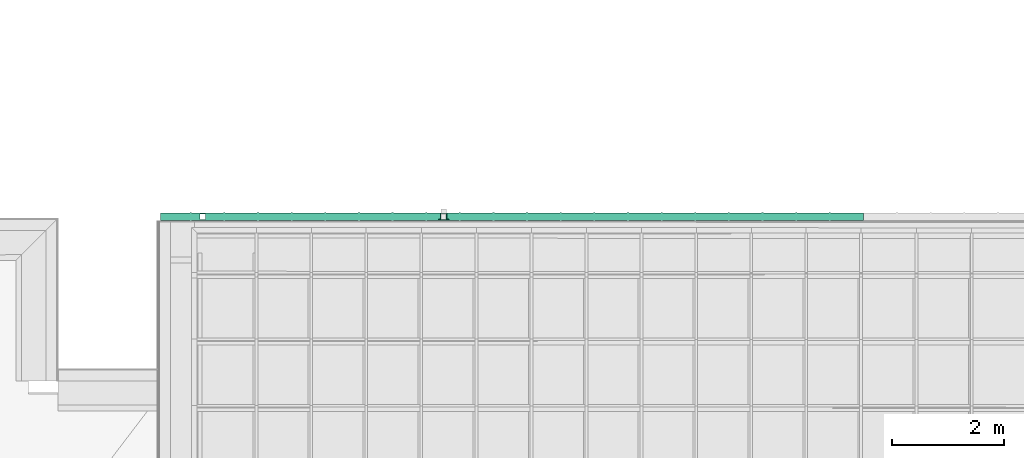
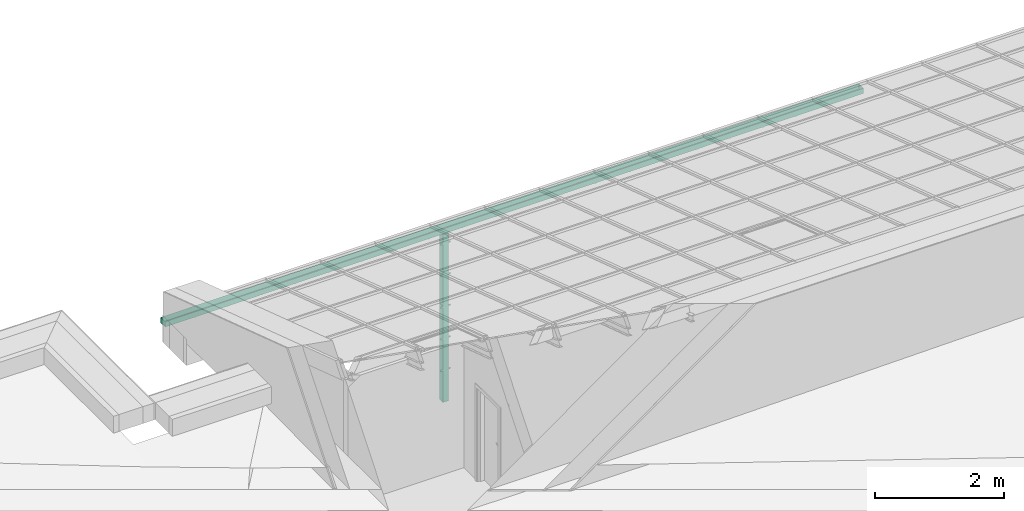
# One storey, part 28 of 47: 2 flow terminals.
"""IFC2X3 building model written with IfcOpenShell, lengths in millimetres."""

from ifc_helpers import new_model, entity, si_unit, converted_unit, derived_unit, money_unit, direction, frame, origin_with_axes, place, context, subcontext, project, spatial, open_shell, faceted_brep, surface_model, type_object, element, save


model = new_model("IFC2X3")

# Units and contexts
model_context = context("Model", 3, precision=1e-05, world=origin_with_axes(), true_north=direction((0.0, 1.0)))
body_context = subcontext(model_context, "Body", "Model", "MODEL_VIEW")
ifc_project = project(units=[si_unit("LENGTHUNIT", "METRE", prefix="MILLI"), si_unit("AREAUNIT", "SQUARE_METRE"), si_unit("VOLUMEUNIT", "CUBIC_METRE"), converted_unit("PLANEANGLEUNIT", "DEGREE", entity("IfcPlaneAngleMeasure", 0.0174532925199), si_unit("PLANEANGLEUNIT", "RADIAN"), dimensions=[0, 0, 0, 0, 0, 0, 0]), si_unit("SOLIDANGLEUNIT", "STERADIAN"), money_unit("EUR"), converted_unit("TIMEUNIT", "Year", entity("IfcTimeMeasure", 31556926.0), si_unit("TIMEUNIT", "SECOND"), dimensions=[0, 0, 1, 0, 0, 0, 0]), si_unit("MASSUNIT", "GRAM", prefix="KILO"), si_unit("THERMODYNAMICTEMPERATUREUNIT", "DEGREE_CELSIUS"), si_unit("LUMINOUSINTENSITYUNIT", "LUMEN"), si_unit("ENERGYUNIT", "JOULE", prefix="MEGA"), derived_unit("THERMALCONDUCTANCEUNIT", [(si_unit("POWERUNIT", "WATT"), 1), (si_unit("LENGTHUNIT", "METRE"), -1), (si_unit("THERMODYNAMICTEMPERATUREUNIT", "KELVIN"), -1)]), derived_unit("SPECIFICHEATCAPACITYUNIT", [(si_unit("ENERGYUNIT", "JOULE"), 1), (si_unit("MASSUNIT", "GRAM", prefix="KILO"), -1), (si_unit("THERMODYNAMICTEMPERATUREUNIT", "KELVIN"), -1)]), derived_unit("MASSDENSITYUNIT", [(si_unit("MASSUNIT", "GRAM", prefix="KILO"), 1), (si_unit("VOLUMEUNIT", "CUBIC_METRE"), -1)])], contexts=[model_context])

# Site, building, storey
site_placement = place(None, origin_with_axes())
site = spatial("IfcSite", under=ifc_project, at=site_placement, Name="Site", CompositionType="ELEMENT")
building_placement = place(site_placement, origin_with_axes())
building = spatial("IfcBuilding", under=site, at=building_placement, Name="Building", CompositionType="ELEMENT")
storey_placement = place(building_placement, frame((0.0, 0.0, 6000.0), z_axis=(0.0, 0.0, 1.0), x_axis=(1.0, 0.0, 0.0)))
storey = spatial("IfcBuildingStorey", under=building, at=storey_placement, Name="KATUSEPLAAN", CompositionType="ELEMENT", Elevation=6000.0)

# Flow terminals
waste_terminal_type_1 = type_object("IfcWasteTerminalType", Name="Gutter 22", PredefinedType="NOTDEFINED")
flow_terminal_1_placement = place(storey_placement, frame((76088.9910702, 47597.8063405, 502.039645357), z_axis=(0.0, 0.0, 1.0), x_axis=(-1.0, 0.0, 0.0)))
element("IfcFlowTerminal", 1, at=flow_terminal_1_placement, inside=storey, type_object=waste_terminal_type_1, Name="Renn", context=body_context, shape_type="SurfaceModel", body=[
    surface_model("IfcShellBasedSurfaceModel", [(-0.349065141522, 70.0, -99.9993907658), (-0.349065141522, -70.0, -99.9993907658), (12538.272558, -70.0, -143.76761473), (12538.272558, 70.0, -143.76761473), (11838.200433, 50.0, -141.323892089), (11838.200433, -50.0, -141.323892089), (11738.2010423, -50.0, -140.974826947), (11738.2010423, 50.0, -140.974826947), (0.0, -70.0, 0.0), (12538.6216231, -70.0, -43.7682239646), (12538.6216231, 70.0, -43.7682239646), (0.0, 70.0, 0.0)], [open_shell([[[0, 1, 2, 3], [4, 5, 6, 7]], [[2, 1, 8, 9]], [[10, 11, 0, 3]]])]),
    surface_model("IfcShellBasedSurfaceModel", [(585.0, -74.0, -0.0420435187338), (585.0, -74.0, -104.147372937), (615.0, -74.0, -104.147372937), (615.0, -74.0, -0.0420435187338), (585.0, 74.0, -104.147372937), (615.0, 74.0, -104.147372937), (585.0, 74.0, -0.0420435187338), (615.0, 74.0, -0.0420435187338)], [open_shell([[[0, 1, 2, 3]], [[1, 4, 5, 2]], [[4, 6, 7, 5]]])]),
    surface_model("IfcShellBasedSurfaceModel", [(1185.0, -74.0, -2.13644712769), (1185.0, -74.0, -106.241776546), (1215.0, -74.0, -106.241776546), (1215.0, -74.0, -2.13644712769), (1185.0, 74.0, -106.241776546), (1215.0, 74.0, -106.241776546), (1185.0, 74.0, -2.13644712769), (1215.0, 74.0, -2.13644712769)], [open_shell([[[0, 1, 2, 3]], [[1, 4, 5, 2]], [[4, 6, 7, 5]]])]),
    surface_model("IfcShellBasedSurfaceModel", [(1785.0, -74.0, -4.23085073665), (1785.0, -74.0, -108.336180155), (1815.0, -74.0, -108.336180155), (1815.0, -74.0, -4.23085073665), (1785.0, 74.0, -108.336180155), (1815.0, 74.0, -108.336180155), (1785.0, 74.0, -4.23085073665), (1815.0, 74.0, -4.23085073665)], [open_shell([[[0, 1, 2, 3]], [[1, 4, 5, 2]], [[4, 6, 7, 5]]])]),
    surface_model("IfcShellBasedSurfaceModel", [(2385.0, -74.0, -6.32525434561), (2385.0, -74.0, -110.430583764), (2415.0, -74.0, -110.430583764), (2415.0, -74.0, -6.32525434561), (2385.0, 74.0, -110.430583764), (2415.0, 74.0, -110.430583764), (2385.0, 74.0, -6.32525434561), (2415.0, 74.0, -6.32525434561)], [open_shell([[[0, 1, 2, 3]], [[1, 4, 5, 2]], [[4, 6, 7, 5]]])]),
    surface_model("IfcShellBasedSurfaceModel", [(2985.0, -74.0, -8.41965795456), (2985.0, -74.0, -112.524987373), (3015.0, -74.0, -112.524987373), (3015.0, -74.0, -8.41965795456), (2985.0, 74.0, -112.524987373), (3015.0, 74.0, -112.524987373), (2985.0, 74.0, -8.41965795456), (3015.0, 74.0, -8.41965795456)], [open_shell([[[0, 1, 2, 3]], [[1, 4, 5, 2]], [[4, 6, 7, 5]]])]),
    surface_model("IfcShellBasedSurfaceModel", [(3585.0, -74.0, -10.5140615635), (3585.0, -74.0, -114.619390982), (3615.0, -74.0, -114.619390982), (3615.0, -74.0, -10.5140615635), (3585.0, 74.0, -114.619390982), (3615.0, 74.0, -114.619390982), (3585.0, 74.0, -10.5140615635), (3615.0, 74.0, -10.5140615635)], [open_shell([[[0, 1, 2, 3]], [[1, 4, 5, 2]], [[4, 6, 7, 5]]])]),
    surface_model("IfcShellBasedSurfaceModel", [(4185.0, -74.0, -12.6084651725), (4185.0, -74.0, -116.713794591), (4215.0, -74.0, -116.713794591), (4215.0, -74.0, -12.6084651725), (4185.0, 74.0, -116.713794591), (4215.0, 74.0, -116.713794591), (4185.0, 74.0, -12.6084651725), (4215.0, 74.0, -12.6084651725)], [open_shell([[[0, 1, 2, 3]], [[1, 4, 5, 2]], [[4, 6, 7, 5]]])]),
    surface_model("IfcShellBasedSurfaceModel", [(4785.0, -74.0, -14.7028687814), (4785.0, -74.0, -118.8081982), (4815.0, -74.0, -118.8081982), (4815.0, -74.0, -14.7028687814), (4785.0, 74.0, -118.8081982), (4815.0, 74.0, -118.8081982), (4785.0, 74.0, -14.7028687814), (4815.0, 74.0, -14.7028687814)], [open_shell([[[0, 1, 2, 3]], [[1, 4, 5, 2]], [[4, 6, 7, 5]]])]),
    surface_model("IfcShellBasedSurfaceModel", [(5385.0, -74.0, -16.7972723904), (5385.0, -74.0, -120.902601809), (5415.0, -74.0, -120.902601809), (5415.0, -74.0, -16.7972723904), (5385.0, 74.0, -120.902601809), (5415.0, 74.0, -120.902601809), (5385.0, 74.0, -16.7972723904), (5415.0, 74.0, -16.7972723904)], [open_shell([[[0, 1, 2, 3]], [[1, 4, 5, 2]], [[4, 6, 7, 5]]])]),
    surface_model("IfcShellBasedSurfaceModel", [(5985.0, -74.0, -18.8916759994), (5985.0, -74.0, -122.997005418), (6015.0, -74.0, -122.997005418), (6015.0, -74.0, -18.8916759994), (5985.0, 74.0, -122.997005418), (6015.0, 74.0, -122.997005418), (5985.0, 74.0, -18.8916759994), (6015.0, 74.0, -18.8916759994)], [open_shell([[[0, 1, 2, 3]], [[1, 4, 5, 2]], [[4, 6, 7, 5]]])]),
    surface_model("IfcShellBasedSurfaceModel", [(6585.0, -74.0, -20.9860796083), (6585.0, -74.0, -125.091409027), (6615.0, -74.0, -125.091409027), (6615.0, -74.0, -20.9860796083), (6585.0, 74.0, -125.091409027), (6615.0, 74.0, -125.091409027), (6585.0, 74.0, -20.9860796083), (6615.0, 74.0, -20.9860796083)], [open_shell([[[0, 1, 2, 3]], [[1, 4, 5, 2]], [[4, 6, 7, 5]]])]),
    surface_model("IfcShellBasedSurfaceModel", [(7185.0, -74.0, -23.0804832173), (7185.0, -74.0, -127.185812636), (7215.0, -74.0, -127.185812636), (7215.0, -74.0, -23.0804832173), (7185.0, 74.0, -127.185812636), (7215.0, 74.0, -127.185812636), (7185.0, 74.0, -23.0804832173), (7215.0, 74.0, -23.0804832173)], [open_shell([[[0, 1, 2, 3]], [[1, 4, 5, 2]], [[4, 6, 7, 5]]])]),
    surface_model("IfcShellBasedSurfaceModel", [(7785.0, -74.0, -25.1748868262), (7785.0, -74.0, -129.280216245), (7815.0, -74.0, -129.280216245), (7815.0, -74.0, -25.1748868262), (7785.0, 74.0, -129.280216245), (7815.0, 74.0, -129.280216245), (7785.0, 74.0, -25.1748868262), (7815.0, 74.0, -25.1748868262)], [open_shell([[[0, 1, 2, 3]], [[1, 4, 5, 2]], [[4, 6, 7, 5]]])]),
    surface_model("IfcShellBasedSurfaceModel", [(8385.0, -74.0, -27.2692904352), (8385.0, -74.0, -131.374619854), (8415.0, -74.0, -131.374619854), (8415.0, -74.0, -27.2692904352), (8385.0, 74.0, -131.374619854), (8415.0, 74.0, -131.374619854), (8385.0, 74.0, -27.2692904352), (8415.0, 74.0, -27.2692904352)], [open_shell([[[0, 1, 2, 3]], [[1, 4, 5, 2]], [[4, 6, 7, 5]]])]),
    surface_model("IfcShellBasedSurfaceModel", [(8985.0, -74.0, -29.3636940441), (8985.0, -74.0, -133.469023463), (9015.0, -74.0, -133.469023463), (9015.0, -74.0, -29.3636940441), (8985.0, 74.0, -133.469023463), (9015.0, 74.0, -133.469023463), (8985.0, 74.0, -29.3636940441), (9015.0, 74.0, -29.3636940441)], [open_shell([[[0, 1, 2, 3]], [[1, 4, 5, 2]], [[4, 6, 7, 5]]])]),
    surface_model("IfcShellBasedSurfaceModel", [(9585.0, -74.0, -31.4580976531), (9585.0, -74.0, -135.563427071), (9615.0, -74.0, -135.563427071), (9615.0, -74.0, -31.4580976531), (9585.0, 74.0, -135.563427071), (9615.0, 74.0, -135.563427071), (9585.0, 74.0, -31.4580976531), (9615.0, 74.0, -31.4580976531)], [open_shell([[[0, 1, 2, 3]], [[1, 4, 5, 2]], [[4, 6, 7, 5]]])]),
    surface_model("IfcShellBasedSurfaceModel", [(10185.0, -74.0, -33.5525012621), (10185.0, -74.0, -137.65783068), (10215.0, -74.0, -137.65783068), (10215.0, -74.0, -33.5525012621), (10185.0, 74.0, -137.65783068), (10215.0, 74.0, -137.65783068), (10185.0, 74.0, -33.5525012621), (10215.0, 74.0, -33.5525012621)], [open_shell([[[0, 1, 2, 3]], [[1, 4, 5, 2]], [[4, 6, 7, 5]]])]),
    surface_model("IfcShellBasedSurfaceModel", [(10785.0, -74.0, -35.646904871), (10785.0, -74.0, -139.752234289), (10815.0, -74.0, -139.752234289), (10815.0, -74.0, -35.646904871), (10785.0, 74.0, -139.752234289), (10815.0, 74.0, -139.752234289), (10785.0, 74.0, -35.646904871), (10815.0, 74.0, -35.646904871)], [open_shell([[[0, 1, 2, 3]], [[1, 4, 5, 2]], [[4, 6, 7, 5]]])]),
    surface_model("IfcShellBasedSurfaceModel", [(11385.0, -74.0, -37.74130848), (11385.0, -74.0, -141.846637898), (11415.0, -74.0, -141.846637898), (11415.0, -74.0, -37.74130848), (11385.0, 74.0, -141.846637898), (11415.0, 74.0, -141.846637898), (11385.0, 74.0, -37.74130848), (11415.0, 74.0, -37.74130848)], [open_shell([[[0, 1, 2, 3]], [[1, 4, 5, 2]], [[4, 6, 7, 5]]])]),
    surface_model("IfcShellBasedSurfaceModel", [(11985.0, -74.0, -39.8357120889), (11985.0, -74.0, -143.941041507), (12015.0, -74.0, -143.941041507), (12015.0, -74.0, -39.8357120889), (11985.0, 74.0, -143.941041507), (12015.0, 74.0, -143.941041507), (11985.0, 74.0, -39.8357120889), (12015.0, 74.0, -39.8357120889)], [open_shell([[[0, 1, 2, 3]], [[1, 4, 5, 2]], [[4, 6, 7, 5]]])]),
    surface_model("IfcShellBasedSurfaceModel", [(0.0, 70.0, 0.0), (-0.349065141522, 70.0, -99.9993907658), (-0.349065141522, -70.0, -99.9993907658), (0.0, -70.0, 0.0)], [open_shell([[[0, 1, 2, 3]]])]),
    surface_model("IfcShellBasedSurfaceModel", [(12538.6216231, 70.0, -43.7682239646), (12538.272558, 70.0, -143.76761473), (12538.272558, -70.0, -143.76761473), (12538.6216231, -70.0, -43.7682239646)], [open_shell([[[0, 1, 2, 3]]])]),
])
waste_terminal_type_2 = type_object("IfcWasteTerminalType", Name="Downspout 22", PredefinedType="NOTDEFINED")
flow_terminal_2_placement = place(storey_placement, frame((68599.8373121, 47597.8063405, -2839.10971416), z_axis=(0.0, 0.0, 1.0), x_axis=(-1.0, 0.0, 0.0)))
element("IfcFlowTerminal", 2, at=flow_terminal_2_placement, inside=storey, type_object=waste_terminal_type_2, Name="FU - 002", context=body_context, shape_type="SurfaceModel", body=[
    surface_model("IfcShellBasedSurfaceModel", [(50.0, -50.0, 3200.0), (50.0, -50.0, 0.0), (50.0, 50.0, 0.0), (50.0, 50.0, 3200.0), (-50.0, -50.0, 3200.0), (-50.0, -50.0, 0.0), (-50.0, 50.0, 0.0), (-50.0, 50.0, 3200.0)], [open_shell([[[0, 1, 2, 3]], [[4, 5, 1, 0]], [[3, 2, 6, 7]], [[7, 6, 5, 4]]])]),
    faceted_brep([(90.0, 47.9, 600.0), (90.0, 47.9, 630.0), (52.0, 47.9, 630.0), (52.0, 47.9, 600.0), (90.0, 49.9, 600.0), (90.0, 49.9, 630.0), (50.2, 49.9, 630.0), (50.2, -50.3, 630.0), (-50.2, -50.3, 630.0), (-50.2, 49.9, 630.0), (-90.0, 49.9, 630.0), (-90.0, 47.9, 630.0), (-52.0, 47.9, 630.0), (-52.0, -52.1, 630.0), (52.0, -52.1, 630.0), (52.0, -52.1, 600.0), (-52.0, -52.1, 600.0), (-52.0, 47.9, 600.0), (-90.0, 47.9, 600.0), (-90.0, 49.9, 600.0), (-50.2, 49.9, 600.0), (-50.2, -50.3, 600.0), (50.2, -50.3, 600.0), (50.2, 49.9, 600.0)], [[[0, 1, 2, 3]], [[4, 5, 1, 0]], [[1, 5, 6, 7, 8, 9, 10, 11, 12, 13, 14, 2]], [[3, 2, 14, 15]], [[0, 3, 15, 16, 17, 18, 19, 20, 21, 22, 23, 4]], [[23, 6, 5, 4]], [[22, 7, 6, 23]], [[21, 8, 7, 22]], [[20, 9, 8, 21]], [[19, 10, 9, 20]], [[18, 11, 10, 19]], [[17, 12, 11, 18]], [[16, 13, 12, 17]], [[15, 14, 13, 16]]]),
    faceted_brep([(90.0, 47.9, 1200.0), (90.0, 47.9, 1230.0), (52.0, 47.9, 1230.0), (52.0, 47.9, 1200.0), (90.0, 49.9, 1200.0), (90.0, 49.9, 1230.0), (50.2, 49.9, 1230.0), (50.2, -50.3, 1230.0), (-50.2, -50.3, 1230.0), (-50.2, 49.9, 1230.0), (-90.0, 49.9, 1230.0), (-90.0, 47.9, 1230.0), (-52.0, 47.9, 1230.0), (-52.0, -52.1, 1230.0), (52.0, -52.1, 1230.0), (52.0, -52.1, 1200.0), (-52.0, -52.1, 1200.0), (-52.0, 47.9, 1200.0), (-90.0, 47.9, 1200.0), (-90.0, 49.9, 1200.0), (-50.2, 49.9, 1200.0), (-50.2, -50.3, 1200.0), (50.2, -50.3, 1200.0), (50.2, 49.9, 1200.0)], [[[0, 1, 2, 3]], [[4, 5, 1, 0]], [[1, 5, 6, 7, 8, 9, 10, 11, 12, 13, 14, 2]], [[3, 2, 14, 15]], [[0, 3, 15, 16, 17, 18, 19, 20, 21, 22, 23, 4]], [[23, 6, 5, 4]], [[22, 7, 6, 23]], [[21, 8, 7, 22]], [[20, 9, 8, 21]], [[19, 10, 9, 20]], [[18, 11, 10, 19]], [[17, 12, 11, 18]], [[16, 13, 12, 17]], [[15, 14, 13, 16]]]),
    faceted_brep([(90.0, 47.9, 1800.0), (90.0, 47.9, 1830.0), (52.0, 47.9, 1830.0), (52.0, 47.9, 1800.0), (90.0, 49.9, 1800.0), (90.0, 49.9, 1830.0), (50.2, 49.9, 1830.0), (50.2, -50.3, 1830.0), (-50.2, -50.3, 1830.0), (-50.2, 49.9, 1830.0), (-90.0, 49.9, 1830.0), (-90.0, 47.9, 1830.0), (-52.0, 47.9, 1830.0), (-52.0, -52.1, 1830.0), (52.0, -52.1, 1830.0), (52.0, -52.1, 1800.0), (-52.0, -52.1, 1800.0), (-52.0, 47.9, 1800.0), (-90.0, 47.9, 1800.0), (-90.0, 49.9, 1800.0), (-50.2, 49.9, 1800.0), (-50.2, -50.3, 1800.0), (50.2, -50.3, 1800.0), (50.2, 49.9, 1800.0)], [[[0, 1, 2, 3]], [[4, 5, 1, 0]], [[1, 5, 6, 7, 8, 9, 10, 11, 12, 13, 14, 2]], [[3, 2, 14, 15]], [[0, 3, 15, 16, 17, 18, 19, 20, 21, 22, 23, 4]], [[23, 6, 5, 4]], [[22, 7, 6, 23]], [[21, 8, 7, 22]], [[20, 9, 8, 21]], [[19, 10, 9, 20]], [[18, 11, 10, 19]], [[17, 12, 11, 18]], [[16, 13, 12, 17]], [[15, 14, 13, 16]]]),
    faceted_brep([(90.0, 47.9, 2400.0), (90.0, 47.9, 2430.0), (52.0, 47.9, 2430.0), (52.0, 47.9, 2400.0), (90.0, 49.9, 2400.0), (90.0, 49.9, 2430.0), (50.2, 49.9, 2430.0), (50.2, -50.3, 2430.0), (-50.2, -50.3, 2430.0), (-50.2, 49.9, 2430.0), (-90.0, 49.9, 2430.0), (-90.0, 47.9, 2430.0), (-52.0, 47.9, 2430.0), (-52.0, -52.1, 2430.0), (52.0, -52.1, 2430.0), (52.0, -52.1, 2400.0), (-52.0, -52.1, 2400.0), (-52.0, 47.9, 2400.0), (-90.0, 47.9, 2400.0), (-90.0, 49.9, 2400.0), (-50.2, 49.9, 2400.0), (-50.2, -50.3, 2400.0), (50.2, -50.3, 2400.0), (50.2, 49.9, 2400.0)], [[[0, 1, 2, 3]], [[4, 5, 1, 0]], [[1, 5, 6, 7, 8, 9, 10, 11, 12, 13, 14, 2]], [[3, 2, 14, 15]], [[0, 3, 15, 16, 17, 18, 19, 20, 21, 22, 23, 4]], [[23, 6, 5, 4]], [[22, 7, 6, 23]], [[21, 8, 7, 22]], [[20, 9, 8, 21]], [[19, 10, 9, 20]], [[18, 11, 10, 19]], [[17, 12, 11, 18]], [[16, 13, 12, 17]], [[15, 14, 13, 16]]]),
    faceted_brep([(90.0, 47.9, 3000.0), (90.0, 47.9, 3030.0), (52.0, 47.9, 3030.0), (52.0, 47.9, 3000.0), (90.0, 49.9, 3000.0), (90.0, 49.9, 3030.0), (50.2, 49.9, 3030.0), (50.2, -50.3, 3030.0), (-50.2, -50.3, 3030.0), (-50.2, 49.9, 3030.0), (-90.0, 49.9, 3030.0), (-90.0, 47.9, 3030.0), (-52.0, 47.9, 3030.0), (-52.0, -52.1, 3030.0), (52.0, -52.1, 3030.0), (52.0, -52.1, 3000.0), (-52.0, -52.1, 3000.0), (-52.0, 47.9, 3000.0), (-90.0, 47.9, 3000.0), (-90.0, 49.9, 3000.0), (-50.2, 49.9, 3000.0), (-50.2, -50.3, 3000.0), (50.2, -50.3, 3000.0), (50.2, 49.9, 3000.0)], [[[0, 1, 2, 3]], [[4, 5, 1, 0]], [[1, 5, 6, 7, 8, 9, 10, 11, 12, 13, 14, 2]], [[3, 2, 14, 15]], [[0, 3, 15, 16, 17, 18, 19, 20, 21, 22, 23, 4]], [[23, 6, 5, 4]], [[22, 7, 6, 23]], [[21, 8, 7, 22]], [[20, 9, 8, 21]], [[19, 10, 9, 20]], [[18, 11, 10, 19]], [[17, 12, 11, 18]], [[16, 13, 12, 17]], [[15, 14, 13, 16]]]),
])

save(model, "model.ifc")
